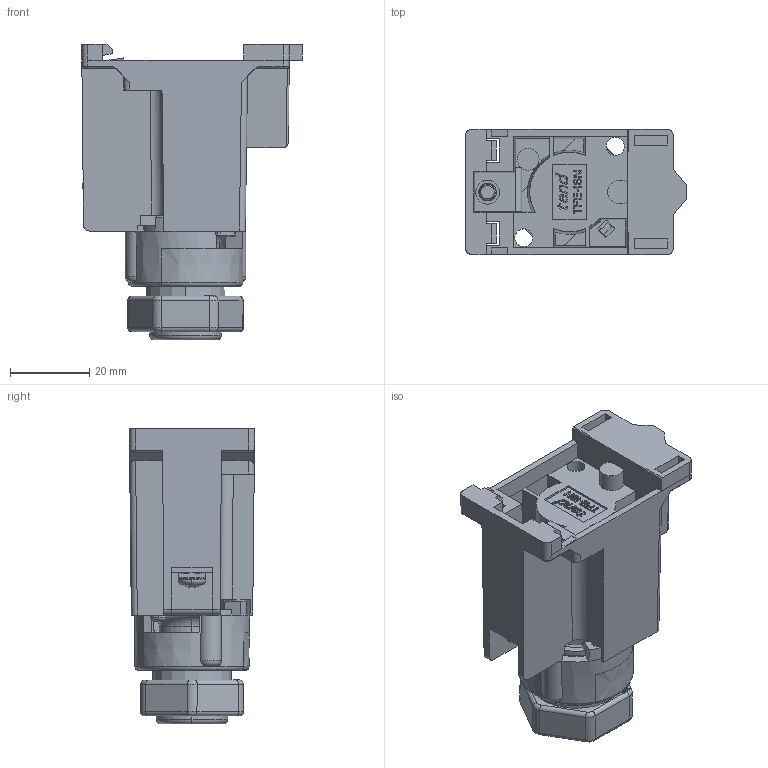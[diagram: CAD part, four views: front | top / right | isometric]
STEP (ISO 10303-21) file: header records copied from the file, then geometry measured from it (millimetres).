
FILE_DESCRIPTION((''),'2;1');
FILE_NAME('ASM0001_ASM','2016-07-08T',('Administrator'),(''),'PRO/ENGINEER BY PARAMETRIC TECHNOLOGY CORPORATION, 2012360','PRO/ENGINEER BY PARAMETRIC TECHNOLOGY CORPORATION, 2012360','');
FILE_SCHEMA(('CONFIG_CONTROL_DESIGN'));
Products named in the file (1): ASM0001_ASM
Bounding box: 55.72 x 31.57 x 74.56 mm (x, y, z)
Volume: 29954.3 mm3; surface area: 29444.8 mm2
Topology: 1 solids, 7 shells, 1264 faces, 3473 edges, 2229 vertices
Faces by surface type: plane 820, cylinder 188, bspline 137, torus 61, cone 38, sphere 14, revolution 4, extrusion 2
Entity records: 57433 total; most frequent: CARTESIAN_POINT 26613, ORIENTED_EDGE 6946, DIRECTION 5549, EDGE_CURVE 3473, VECTOR 2333, LINE 2331, VERTEX_POINT 2229, AXIS2_PLACEMENT_3D 1606
